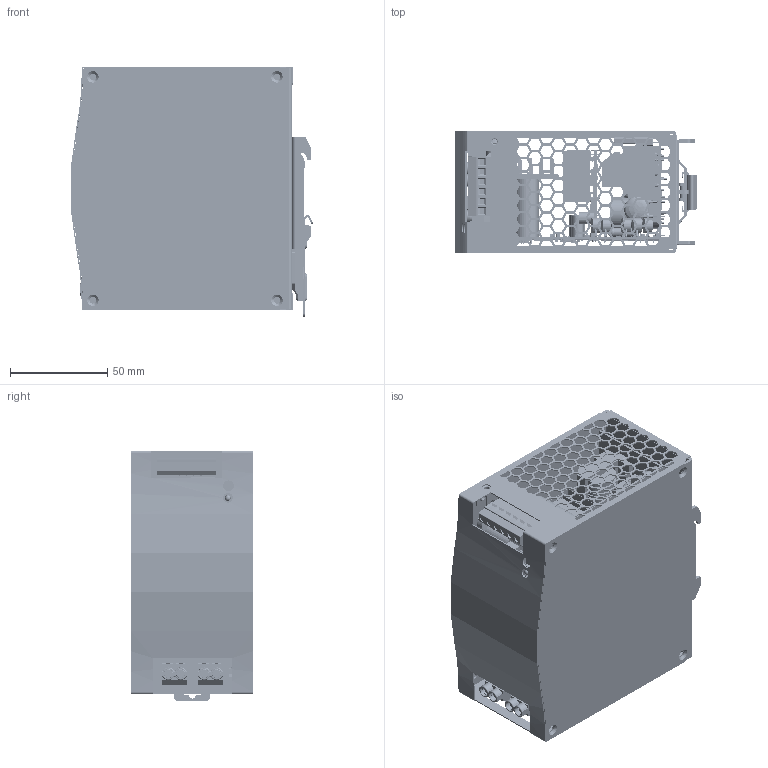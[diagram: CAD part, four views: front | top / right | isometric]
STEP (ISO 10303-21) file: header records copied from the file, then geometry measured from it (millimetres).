
FILE_DESCRIPTION(('Creo Elements/Direct Modeling STEP Export'),'2;1');
FILE_NAME('DDRH-120.stp','2023-03-07T11:02:33',(''),(''),'PTC Creo Elements/Direct Modeling STEP processor for AP214 (Solid Model)','PTC Creo Elements/Direct Modeling 19.0E 27-Jun-2016 (C) Parametric Technology GmbH','');
FILE_SCHEMA(('AUTOMOTIVE_DESIGN { 1 0 10303 214 1 1 1 1 }'));
Length unit declared in the file: millimetre
Products named in the file (786): 上盖; ESK635V-644084-1-61860.PRT; ESK635V-644084-1-62190.ASM; 644804.stp.1; 644804.stp; DG381H-3_81-06P-14-00A_H_.stp; 装配2; DG127H-5_08-06P-1Y-00A_H_.prt; DG127H-5_08-06P-1Y-00A_H_.stp; 装配1; 下盖; 1HH2DDRH-120C; VR.PRT; LED.PRT; A2.ASM; 1HH2DDRH-120A; P1.PRT; P3_1.PRT; 挂钩; 1GG1HS-SZ154.1; 1HH2DDRH-120; 1HH1DDRH-120C; 052A-4730.ASM; 1GG2MHS052A; MHS056A; 1HH2DDRH-120B; 1GG1HS-SZ910A-24840.PRT; 1GG1HS-SZ910A-25170.ASM; 1GG1HS-SZ912.stp; 1GG1HS-SZ912-R3X; 组配; P3_1_1_PRT_PRT-13260.PRT; P3_1_1_PRT_PRT-13590.ASM; F1.stp; 零件1; 零件2; 面组.1; 1CDX-TO-220AB-1_2_PRT.PRT; MOS; BOARD.PRT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
Assembly tree (1370 placements, depth 9):
  装配1
    DG127H-5_08-06P-1Y-00A_H_.stp
      DG127H-5_08-06P-1Y-00A_H_.prt
    装配2
      DG381H-3_81-06P-14-00A_H_.stp
      644804.stp
        644804.stp.1
          ESK635V-644084-1-62190.ASM
            ESK635V-644084-1-61860.PRT
        ESK635V-644084-1-62190.ASM
          ESK635V-644084-1-61860.PRT
      644804.stp.1
        644804.stp.1
          ESK635V-644084-1-62190.ASM
            ESK635V-644084-1-61860.PRT
        ESK635V-644084-1-62190.ASM
          ESK635V-644084-1-61860.PRT
    上盖
  DDRH-120(SDR-240)
    PCB
      PCBE1
        DDRH-120E-R1X.step
          PCB.ASM
            R1.ASM
              781191632.ASM
                781191632_4.PRT
                781191632_3.PRT
                781191632_2.PRT
                781191632_1.PRT
            ZD7.ASM
              2CDX-SOD123.PRT
            ZD4.ASM
              2CDX-SOD123.PRT
            Q10.ASM
              920277664.ASM  x2
                EXTRUDED-203565.PRT
              920277504.ASM
                EXTRUDED-203193.PRT
              920277344.ASM
                EXTRUDED-202509.PRT
              920277184.ASM
                EXTRUDED-202137.PRT
            Q9.ASM
              920277664.ASM  x2
                EXTRUDED-203565.PRT
              920277504.ASM
                EXTRUDED-203193.PRT
              920277344.ASM
                EXTRUDED-202509.PRT
              920277184.ASM
                EXTRUDED-202137.PRT
            C20.ASM
              781192088.PRT
            C67.ASM
              781192088.PRT
            C68.ASM
              781192088.PRT
            C69.ASM
              781192088.PRT
            C73.ASM
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Bounding box: 125.02 x 63 x 128.71 mm (x, y, z)
Volume: 237666.8 mm3; surface area: 350466.1 mm2
Topology: 1184 solids, 1187 shells, 27535 faces, 71413 edges, 46528 vertices
Faces by surface type: plane 16812, extrusion 5543, cylinder 3608, sphere 823, torus 487, cone 130, bspline 108, revolution 24
Entity records: 438264 total; most frequent: CARTESIAN_POINT 119973, ORIENTED_EDGE 55514, DIRECTION 50869, EDGE_CURVE 27757, VECTOR 20568, LINE 19395, VERTEX_POINT 18041, AXIS2_PLACEMENT_3D 15146
